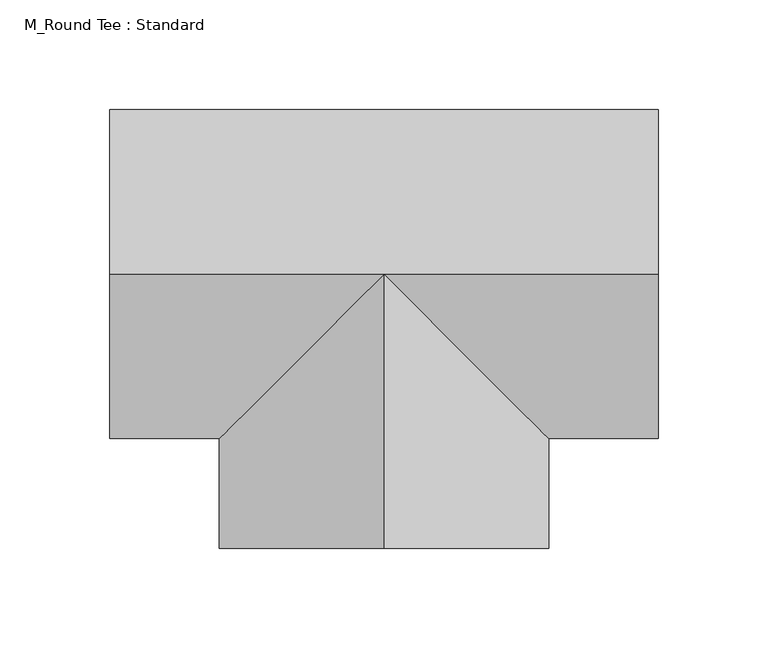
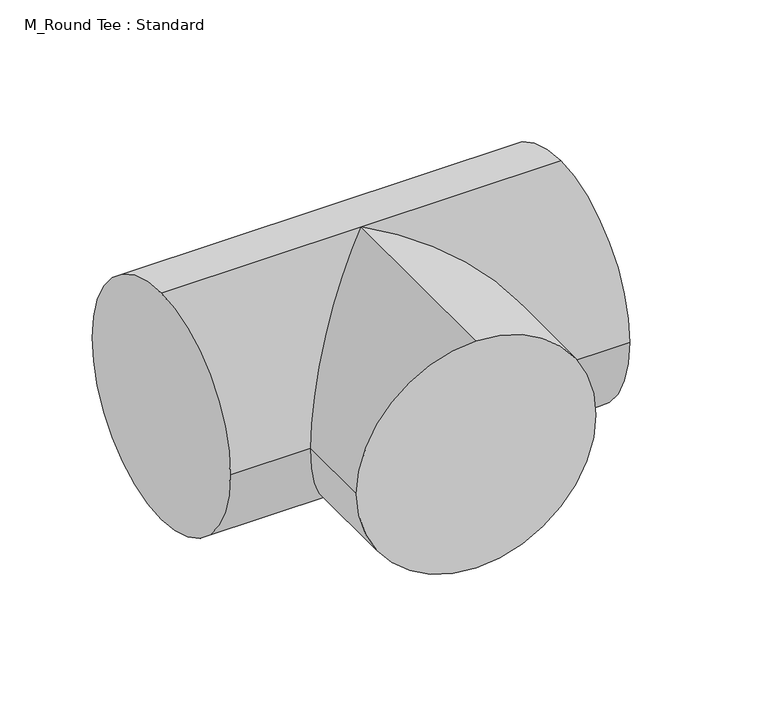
"""IFC4 building model written with IfcOpenShell, lengths in millimetres: duct fitting geometry, M_Round Tee : Standard."""

from ifc_helpers import new_model, si_unit, frame, origin, place, context, project, spatial, circle_curve, ellipse_curve, source, transform, mapped, element, save
from ifc_brep_helpers import plane_surface, cylinder_surface, advanced_brep


def m_round_tee_standard_034acf2d(model_context):
    return source(origin(), model_context, "Body", "AdvancedBrep", [
        advanced_brep(
        [(-125.0, 0.0, 75.0), (-125.0, 75.0, 0.0), (-125.0, 0.0, -75.0), (-125.0, -75.0, 0.0), (125.0, 0.0, 75.0), (125.0, -75.0, 0.0), (125.0, 0.0, -75.0), (125.0, 75.0, 0.0), (0.0, 0.0, 75.0), (0.0, 0.0, -75.0), (-75.0, -75.0, 0.0), (75.0, -75.0, 0.0), (0.0, -125.0, 75.0), (-75.0, -125.0, 0.0), (0.0, -125.0, -75.0), (75.0, -125.0, 0.0)],
        [
            (0, 1, circle_curve(frame((-125.0, 0.0, 0.0), z_axis=(-1.0, 0.0, 0.0), x_axis=(0.0, 1.0, 0.0)), 75.0)),
            (1, 2, circle_curve(frame((-125.0, 0.0, 0.0), z_axis=(-1.0, 0.0, 0.0), x_axis=(0.0, 1.0, 0.0)), 75.0)),
            (2, 3, circle_curve(frame((-125.0, 0.0, 0.0), z_axis=(-1.0, 0.0, 0.0), x_axis=(0.0, 1.0, 0.0)), 75.0)),
            (3, 0, circle_curve(frame((-125.0, 0.0, 0.0), z_axis=(-1.0, 0.0, 0.0), x_axis=(0.0, 1.0, 0.0)), 75.0)),
            (4, 5, circle_curve(frame((125.0, 0.0, 0.0), z_axis=(1.0, 0.0, 0.0), x_axis=(0.0, 1.0, 0.0)), 75.0)),
            (5, 6, circle_curve(frame((125.0, 0.0, 0.0), z_axis=(1.0, 0.0, 0.0), x_axis=(0.0, 1.0, 0.0)), 75.0)),
            (6, 7, circle_curve(frame((125.0, 0.0, 0.0), z_axis=(1.0, 0.0, 0.0), x_axis=(0.0, 1.0, 0.0)), 75.0)),
            (7, 4, circle_curve(frame((125.0, 0.0, 0.0), z_axis=(1.0, 0.0, 0.0), x_axis=(0.0, 1.0, 0.0)), 75.0)),
            (0, 8),
            (8, 4),
            (7, 1),
            (6, 9),
            (9, 2),
            (9, 10, ellipse_curve(frame((0.0, 0.0, 0.0), z_axis=(-0.7071067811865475, 0.7071067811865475, 0.0), x_axis=(-0.7071067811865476, -0.7071067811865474, 0.0)), 106.0660172, 75.0)),
            (10, 3),
            (5, 11),
            (11, 9, ellipse_curve(frame((0.0, 0.0, 0.0), z_axis=(0.7071067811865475, 0.7071067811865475, 0.0), x_axis=(-0.7071067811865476, 0.7071067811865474, 0.0)), 106.0660172, 75.0)),
            (10, 8, ellipse_curve(frame((0.0, 0.0, 0.0), z_axis=(-0.7071067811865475, 0.7071067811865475, 0.0), x_axis=(-0.7071067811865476, -0.7071067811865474, 0.0)), 106.0660172, 75.0)),
            (8, 11, ellipse_curve(frame((0.0, 0.0, 0.0), z_axis=(0.7071067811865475, 0.7071067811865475, 0.0), x_axis=(-0.7071067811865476, 0.7071067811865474, 0.0)), 106.0660172, 75.0)),
            (12, 13, circle_curve(frame((0.0, -125.0, 0.0), z_axis=(0.0, -1.0, 0.0), x_axis=(1.0, 0.0, 0.0)), 75.0)),
            (13, 14, circle_curve(frame((0.0, -125.0, 0.0), z_axis=(0.0, -1.0, 0.0), x_axis=(1.0, 0.0, 0.0)), 75.0)),
            (14, 15, circle_curve(frame((0.0, -125.0, 0.0), z_axis=(0.0, -1.0, 0.0), x_axis=(1.0, 0.0, 0.0)), 75.0)),
            (15, 12, circle_curve(frame((0.0, -125.0, 0.0), z_axis=(0.0, -1.0, 0.0), x_axis=(1.0, 0.0, 0.0)), 75.0)),
            (15, 11),
            (8, 12),
            (14, 9),
            (13, 10),
        ],
        [
            plane_surface(frame((-125.0, 0.0, 0.0), z_axis=(-1.0, 0.0, 0.0), x_axis=(0.0, 0.0, 1.0))),
            plane_surface(frame((125.0, 0.0, 0.0), z_axis=(1.0, 0.0, 0.0), x_axis=(0.0, 0.0, 1.0))),
            cylinder_surface(frame((-125.0, 0.0, 0.0), z_axis=(-1.0, 0.0, 0.0), x_axis=(0.0, 1.0, 0.0)), 75.0),
            plane_surface(frame((0.0, -125.0, 0.0), z_axis=(0.0, -1.0, 0.0), x_axis=(0.0, 0.0, 1.0))),
            cylinder_surface(frame((0.0, 0.0, 0.0), z_axis=(0.0, 1.0, 0.0), x_axis=(1.0, 0.0, 0.0)), 75.0),
        ],
        [
            (0, [[1, 2, 3, 4]]),
            (1, [[5, 6, 7, 8]]),
            (2, [[-1, 9, 10, -8, 11]]),
            (2, [[-2, -11, -7, 12, 13]]),
            (2, [[-3, -13, 14, 15]]),
            (2, [[-6, 16, 17, -12]]),
            (2, [[-4, -15, 18, -9]]),
            (2, [[-5, -10, 19, -16]]),
            (3, [[20, 21, 22, 23]]),
            (4, [[-23, 24, -19, 25]]),
            (4, [[-22, 26, -17, -24]]),
            (4, [[-21, 27, -14, -26]]),
            (4, [[-20, -25, -18, -27]]),
        ],
    ),
        advanced_brep(
        [(-125.0, 0.0, 75.0), (-125.0, 75.0, 0.0), (-125.0, 0.0, -75.0), (-125.0, -75.0, 0.0), (125.0, 0.0, 75.0), (125.0, -75.0, 0.0), (125.0, 0.0, -75.0), (125.0, 75.0, 0.0), (0.0, 0.0, 75.0), (0.0, 0.0, -75.0), (-75.0, -75.0, 0.0), (75.0, -75.0, 0.0), (0.0, -125.0, 75.0), (-75.0, -125.0, 0.0), (0.0, -125.0, -75.0), (75.0, -125.0, 0.0)],
        [
            (0, 1, circle_curve(frame((-125.0, 0.0, 0.0), z_axis=(-1.0, 0.0, 0.0), x_axis=(0.0, 1.0, 0.0)), 75.0)),
            (1, 2, circle_curve(frame((-125.0, 0.0, 0.0), z_axis=(-1.0, 0.0, 0.0), x_axis=(0.0, 1.0, 0.0)), 75.0)),
            (2, 3, circle_curve(frame((-125.0, 0.0, 0.0), z_axis=(-1.0, 0.0, 0.0), x_axis=(0.0, 1.0, 0.0)), 75.0)),
            (3, 0, circle_curve(frame((-125.0, 0.0, 0.0), z_axis=(-1.0, 0.0, 0.0), x_axis=(0.0, 1.0, 0.0)), 75.0)),
            (4, 5, circle_curve(frame((125.0, 0.0, 0.0), z_axis=(1.0, 0.0, 0.0), x_axis=(0.0, 1.0, 0.0)), 75.0)),
            (5, 6, circle_curve(frame((125.0, 0.0, 0.0), z_axis=(1.0, 0.0, 0.0), x_axis=(0.0, 1.0, 0.0)), 75.0)),
            (6, 7, circle_curve(frame((125.0, 0.0, 0.0), z_axis=(1.0, 0.0, 0.0), x_axis=(0.0, 1.0, 0.0)), 75.0)),
            (7, 4, circle_curve(frame((125.0, 0.0, 0.0), z_axis=(1.0, 0.0, 0.0), x_axis=(0.0, 1.0, 0.0)), 75.0)),
            (0, 8),
            (8, 4),
            (7, 1),
            (6, 9),
            (9, 2),
            (9, 10, ellipse_curve(frame((0.0, 0.0, 0.0), z_axis=(-0.7071067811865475, 0.7071067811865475, 0.0), x_axis=(-0.7071067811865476, -0.7071067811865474, 0.0)), 106.0660172, 75.0)),
            (10, 3),
            (5, 11),
            (11, 9, ellipse_curve(frame((0.0, 0.0, 0.0), z_axis=(0.7071067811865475, 0.7071067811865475, 0.0), x_axis=(-0.7071067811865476, 0.7071067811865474, 0.0)), 106.0660172, 75.0)),
            (10, 8, ellipse_curve(frame((0.0, 0.0, 0.0), z_axis=(-0.7071067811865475, 0.7071067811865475, 0.0), x_axis=(-0.7071067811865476, -0.7071067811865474, 0.0)), 106.0660172, 75.0)),
            (8, 11, ellipse_curve(frame((0.0, 0.0, 0.0), z_axis=(0.7071067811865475, 0.7071067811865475, 0.0), x_axis=(-0.7071067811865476, 0.7071067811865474, 0.0)), 106.0660172, 75.0)),
            (12, 13, circle_curve(frame((0.0, -125.0, 0.0), z_axis=(0.0, -1.0, 0.0), x_axis=(1.0, 0.0, 0.0)), 75.0)),
            (13, 14, circle_curve(frame((0.0, -125.0, 0.0), z_axis=(0.0, -1.0, 0.0), x_axis=(1.0, 0.0, 0.0)), 75.0)),
            (14, 15, circle_curve(frame((0.0, -125.0, 0.0), z_axis=(0.0, -1.0, 0.0), x_axis=(1.0, 0.0, 0.0)), 75.0)),
            (15, 12, circle_curve(frame((0.0, -125.0, 0.0), z_axis=(0.0, -1.0, 0.0), x_axis=(1.0, 0.0, 0.0)), 75.0)),
            (15, 11),
            (8, 12),
            (14, 9),
            (13, 10),
        ],
        [
            plane_surface(frame((-125.0, 0.0, 0.0), z_axis=(-1.0, 0.0, 0.0), x_axis=(0.0, 0.0, 1.0))),
            plane_surface(frame((125.0, 0.0, 0.0), z_axis=(1.0, 0.0, 0.0), x_axis=(0.0, 0.0, 1.0))),
            cylinder_surface(frame((-125.0, 0.0, 0.0), z_axis=(-1.0, 0.0, 0.0), x_axis=(0.0, 1.0, 0.0)), 75.0),
            plane_surface(frame((0.0, -125.0, 0.0), z_axis=(0.0, -1.0, 0.0), x_axis=(0.0, 0.0, 1.0))),
            cylinder_surface(frame((0.0, 0.0, 0.0), z_axis=(0.0, 1.0, 0.0), x_axis=(1.0, 0.0, 0.0)), 75.0),
        ],
        [
            (0, [[1, 2, 3, 4]]),
            (1, [[5, 6, 7, 8]]),
            (2, [[-1, 9, 10, -8, 11]]),
            (2, [[-2, -11, -7, 12, 13]]),
            (2, [[-3, -13, 14, 15]]),
            (2, [[-6, 16, 17, -12]]),
            (2, [[-4, -15, 18, -9]]),
            (2, [[-5, -10, 19, -16]]),
            (3, [[20, 21, 22, 23]]),
            (4, [[-23, 24, -19, 25]]),
            (4, [[-22, 26, -17, -24]]),
            (4, [[-21, 27, -14, -26]]),
            (4, [[-20, -25, -18, -27]]),
        ],
    ),
        advanced_brep(
        [(0.0, -125.0, 75.0), (-75.0, -125.0, 0.0), (0.0, -125.0, -75.0), (75.0, -125.0, 0.0), (75.0, -75.0, 0.0), (0.0, 0.0, 75.0), (0.0, 0.0, -75.0), (-75.0, -75.0, 0.0), (-125.0, 0.0, 75.0), (-125.0, 75.0, 0.0), (-125.0, 0.0, -75.0), (-125.0, -75.0, 0.0), (125.0, 0.0, 75.0), (125.0, -75.0, 0.0), (125.0, 0.0, -75.0), (125.0, 75.0, 0.0)],
        [
            (0, 1, circle_curve(frame((0.0, -125.0, 0.0), z_axis=(0.0, -1.0, 0.0), x_axis=(1.0, 0.0, 0.0)), 75.0)),
            (1, 2, circle_curve(frame((0.0, -125.0, 0.0), z_axis=(0.0, -1.0, 0.0), x_axis=(1.0, 0.0, 0.0)), 75.0)),
            (2, 3, circle_curve(frame((0.0, -125.0, 0.0), z_axis=(0.0, -1.0, 0.0), x_axis=(1.0, 0.0, 0.0)), 75.0)),
            (3, 0, circle_curve(frame((0.0, -125.0, 0.0), z_axis=(0.0, -1.0, 0.0), x_axis=(1.0, 0.0, 0.0)), 75.0)),
            (3, 4),
            (4, 5, ellipse_curve(frame((0.0, 0.0, 0.0), z_axis=(-0.7071067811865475, -0.7071067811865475, 0.0), x_axis=(-0.7071067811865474, 0.7071067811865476, 0.0)), 106.0660172, 75.0)),
            (5, 0),
            (2, 6),
            (6, 4, ellipse_curve(frame((0.0, 0.0, 0.0), z_axis=(-0.7071067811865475, -0.7071067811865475, 0.0), x_axis=(-0.7071067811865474, 0.7071067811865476, 0.0)), 106.0660172, 75.0)),
            (1, 7),
            (7, 6, ellipse_curve(frame((0.0, 0.0, 0.0), z_axis=(0.7071067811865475, -0.7071067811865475, 0.0), x_axis=(0.7071067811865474, 0.7071067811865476, 0.0)), 106.0660172, 75.0)),
            (5, 7, ellipse_curve(frame((0.0, 0.0, 0.0), z_axis=(0.7071067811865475, -0.7071067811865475, 0.0), x_axis=(0.7071067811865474, 0.7071067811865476, 0.0)), 106.0660172, 75.0)),
            (8, 9, circle_curve(frame((-125.0, 0.0, 0.0), z_axis=(-1.0, 0.0, 0.0), x_axis=(0.0, 1.0, 0.0)), 75.0)),
            (9, 10, circle_curve(frame((-125.0, 0.0, 0.0), z_axis=(-1.0, 0.0, 0.0), x_axis=(0.0, 1.0, 0.0)), 75.0)),
            (10, 11, circle_curve(frame((-125.0, 0.0, 0.0), z_axis=(-1.0, 0.0, 0.0), x_axis=(0.0, 1.0, 0.0)), 75.0)),
            (11, 8, circle_curve(frame((-125.0, 0.0, 0.0), z_axis=(-1.0, 0.0, 0.0), x_axis=(0.0, 1.0, 0.0)), 75.0)),
            (12, 13, circle_curve(frame((125.0, 0.0, 0.0), z_axis=(1.0, 0.0, 0.0), x_axis=(0.0, 1.0, 0.0)), 75.0)),
            (13, 14, circle_curve(frame((125.0, 0.0, 0.0), z_axis=(1.0, 0.0, 0.0), x_axis=(0.0, 1.0, 0.0)), 75.0)),
            (14, 15, circle_curve(frame((125.0, 0.0, 0.0), z_axis=(1.0, 0.0, 0.0), x_axis=(0.0, 1.0, 0.0)), 75.0)),
            (15, 12, circle_curve(frame((125.0, 0.0, 0.0), z_axis=(1.0, 0.0, 0.0), x_axis=(0.0, 1.0, 0.0)), 75.0)),
            (8, 5),
            (5, 12),
            (15, 9),
            (14, 6),
            (6, 10),
            (7, 11),
            (13, 4),
        ],
        [
            plane_surface(frame((0.0, -125.0, 0.0), z_axis=(0.0, -1.0, 0.0), x_axis=(0.0, 0.0, 1.0))),
            cylinder_surface(frame((0.0, 0.0, 0.0), z_axis=(0.0, 1.0, 0.0), x_axis=(1.0, 0.0, 0.0)), 75.0),
            plane_surface(frame((-125.0, 0.0, 0.0), z_axis=(-1.0, 0.0, 0.0), x_axis=(0.0, 0.0, 1.0))),
            plane_surface(frame((125.0, 0.0, 0.0), z_axis=(1.0, 0.0, 0.0), x_axis=(0.0, 0.0, 1.0))),
            cylinder_surface(frame((-125.0, 0.0, 0.0), z_axis=(-1.0, 0.0, 0.0), x_axis=(0.0, 1.0, 0.0)), 75.0),
        ],
        [
            (0, [[1, 2, 3, 4]]),
            (1, [[-4, 5, 6, 7]]),
            (1, [[-3, 8, 9, -5]]),
            (1, [[-2, 10, 11, -8]]),
            (1, [[-1, -7, 12, -10]]),
            (2, [[13, 14, 15, 16]]),
            (3, [[17, 18, 19, 20]]),
            (4, [[-13, 21, 22, -20, 23]]),
            (4, [[-14, -23, -19, 24, 25]]),
            (4, [[-15, -25, -11, 26]]),
            (4, [[-18, 27, -9, -24]]),
            (4, [[-16, -26, -12, -21]]),
            (4, [[-17, -22, -6, -27]]),
        ],
    ),
    ])


if __name__ == "__main__":
    model = new_model("IFC4")
    model_context = context("Model", 3, world=origin())
    ifc_project = project(units=[si_unit("LENGTHUNIT", "METRE", prefix="MILLI")], contexts=[model_context])
    site = spatial("IfcSite", under=ifc_project)
    building = spatial("IfcBuilding", under=site)
    placement = place(None, origin())
    m_round_tee_standard_shape = m_round_tee_standard_034acf2d(model_context)
    element("IfcDuctFitting", 1, ObjectType="M_Round Tee : Standard", at=placement, inside=building, context=model_context, shape_type="MappedRepresentation", body=[
        mapped(m_round_tee_standard_shape, transform((0.0, 0.0, 0.0), x_axis=(1.0, 0.0, 0.0), y_axis=(0.0, 1.0, 0.0), z_axis=(0.0, 0.0, 1.0))),
    ])
    save(model, "model.ifc")
